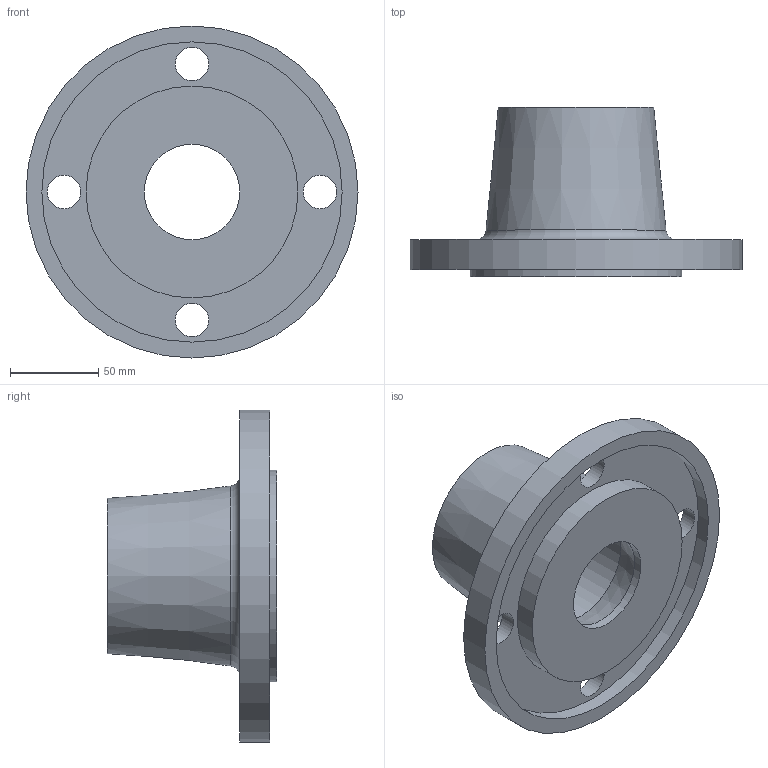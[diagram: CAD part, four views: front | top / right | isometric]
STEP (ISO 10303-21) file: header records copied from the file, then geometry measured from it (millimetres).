
FILE_DESCRIPTION(/* description */ (''),/* implementation_level */ '2;1');
FILE_NAME(/* name */ 'J:\onedrive\INVENTOR mellan skolPC och privatPC\Belos job 2022\export alla parter\Ny 5530 Rörfläns reducerad.stp',/* time_stamp */ '2022-02-19T13:24:57+01:00',/* author */ ('erikb'),/* organization */ (''),/* preprocessor_version */ 'ST-DEVELOPER v18.1',/* originating_system */ 'Autodesk Inventor 2022',/* authorisation */ '');
FILE_SCHEMA (('CONFIG_CONTROL_DESIGN'));
Length unit declared in the file: millimetre
Products named in the file (1): Ny 5530 Rörfläns reducerad
Bounding box: 188 x 96 x 188 mm (x, y, z)
Volume: 659603.4 mm3; surface area: 107483.5 mm2
Topology: 1 solids, 1 shells, 17 faces, 34 edges, 22 vertices
Faces by surface type: cylinder 9, plane 5, cone 2, torus 1
Full cylindrical faces by diameter (mm): 19 x4, 54 x1, 64 x1, 120 x1, 170 x1, 188 x1
Entity records: 542 total; most frequent: DIRECTION 93, CARTESIAN_POINT 74, ORIENTED_EDGE 68, AXIS2_PLACEMENT_3D 41, EDGE_CURVE 34, EDGE_LOOP 30, CIRCLE 23, VERTEX_POINT 22
